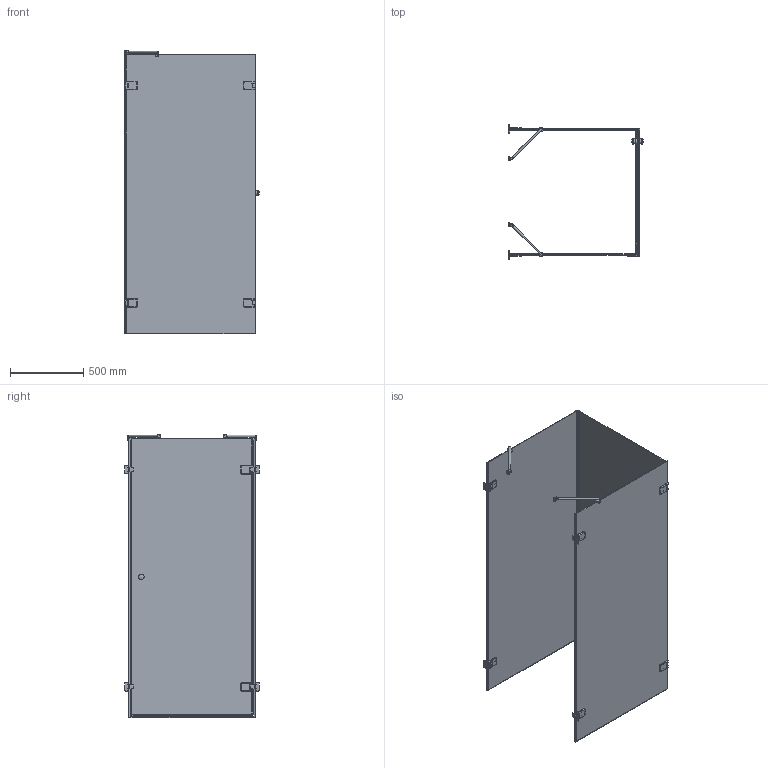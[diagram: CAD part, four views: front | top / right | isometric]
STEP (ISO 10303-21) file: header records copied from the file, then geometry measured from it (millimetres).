
FILE_DESCRIPTION(/* description */ (''),/* implementation_level */ '2;1');
FILE_NAME(/* name */ 'D:\!\LUX SQUARE GK-003B\LUX SQUARE GK-003B левая модель\LUX SQUARE GK-003B ЛЕВАЯ-3D.stp',/* time_stamp */ '2020-02-28T20:26:33+03:00',/* author */ ('User'),/* organization */ (''),/* preprocessor_version */ 'ST-DEVELOPER v15.2',/* originating_system */ 'Autodesk Inventor 2014',/* authorisation */ '');
FILE_SCHEMA (('AUTOMOTIVE_DESIGN { 1 0 10303 214 3 1 1 }'));
Products named in the file (1): LUX SQUARE GK-003B ЛЕВАЯ-3D
Bounding box: 920 x 914 x 1931.5 mm (x, y, z)
Volume: 30449108.4 mm3; surface area: 10596179.4 mm2
Topology: 8 solids, 8 shells, 1765 faces, 4964 edges, 3176 vertices
Faces by surface type: plane 1118, cylinder 528, torus 51, cone 32, sphere 30, bspline 6
Full cylindrical faces by diameter (mm): 5.5 x10, 10 x6, 15 x2, 20 x4, 26 x2, 38 x4
Entity records: 58860 total; most frequent: CARTESIAN_POINT 10650, ORIENTED_EDGE 9920, DIRECTION 9615, EDGE_CURVE 4914, LINE 3605, VECTOR 3605, VERTEX_POINT 3162, AXIS2_PLACEMENT_3D 3005
